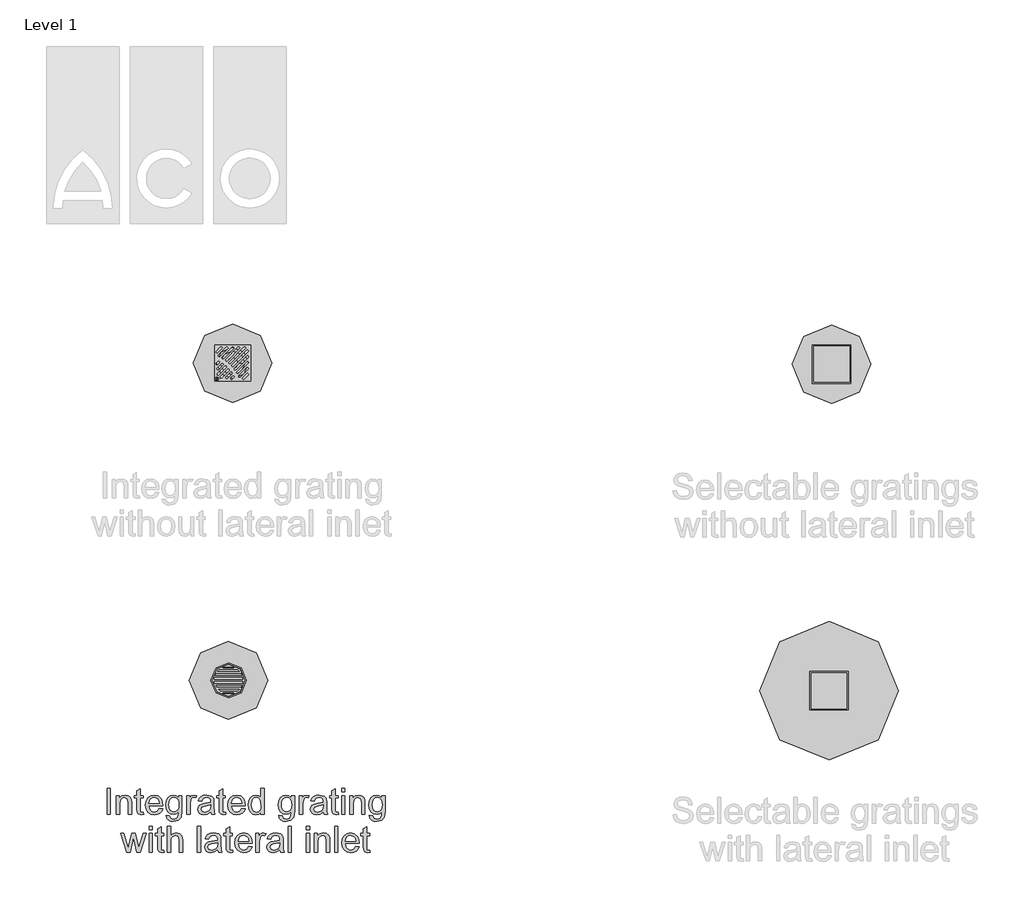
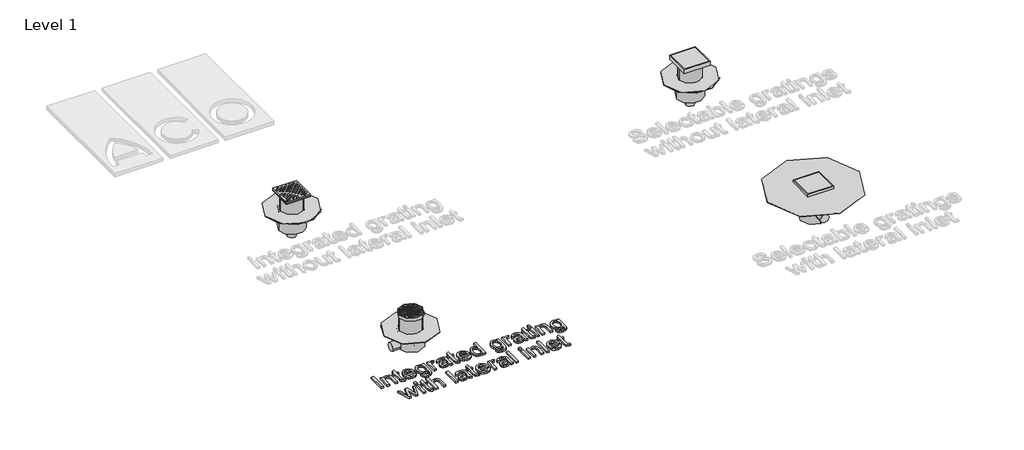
# One storey, part 1 of 4: 15 sanitary terminals, 4 pipe fittings, 1 proxy.
"""IFC4 building model written with IfcOpenShell, lengths in millimetres."""

from ifc_helpers import new_model, si_unit, origin, origin_with_axes, place, context, project, spatial, polyline, outline, extrude, transform, mapped, element, save
from components import std_nested_ba2fb492, std_nested_5614749a, forest_lockable_cee7f754, std_nested_ef57f552, std_nested_a513f84e, std_nested_4c5e4d0c, std_nested_d89320c1, std_nested_aac93e22, std_nested_ec2660e4, std_nested_a4f35663, std_nested_e99c1087

model = new_model("IFC4")

# Units and contexts
model_context = context("Model", 3, world=origin())
ifc_project = project(units=[si_unit("LENGTHUNIT", "METRE", prefix="MILLI")], contexts=[model_context])

# Site, building, storey
site = spatial("IfcSite", under=ifc_project)
building = spatial("IfcBuilding", under=site)
storey = spatial("IfcBuildingStorey", under=building, Name="Level 1", Elevation=0.0)

# Proxy
placement = place(None, origin())
element("IfcBuildingElementProxy", 1, Name="100mm ACO", ObjectType="100mm ACO", at=placement, inside=storey, context=model_context, shape_type="SweptSolid", body=[
    extrude(outline(polyline([(1762.1937772, -2112.0865747), (1749.2308143, -2112.0865747), (1749.2308143, -2012.0865747), (1762.1937772, -2012.0865747), (1762.1937772, -2112.0865747)])), origin_with_axes(), (0.0, 0.0, 1.0), 10.0),
    extrude(outline(polyline([(1843.6752587, -2112.0865747), (1830.7122957, -2112.0865747), (1830.7122957, -2067.1212969), (1826.8494485, -2051.5252321), (1816.1000272, -2047.2717598), (1806.0739856, -2049.9916673), (1799.3610226, -2057.6594913), (1797.3789624, -2071.664121), (1797.3789624, -2112.0865747), (1784.4159994, -2112.0865747), (1784.4159994, -2039.8643524), (1795.5271106, -2039.8643524), (1795.5271106, -2049.9048617), (1805.4229439, -2040.9783571), (1818.6752587, -2038.0125006), (1830.0467865, -2040.0668987), (1838.8430828, -2046.2156256), (1842.8506059, -2054.9540515), (1843.6752587, -2067.4974543), (1843.6752587, -2112.0865747)])), origin_with_axes(), (0.0, 0.0, 1.0), 10.0),
    extrude(outline(polyline([(1889.971555, -2113.0993061), (1880.8859069, -2113.9384265), (1869.2973652, -2111.0593756), (1864.8558143, -2103.7532413), (1864.0456291, -2091.4268524), (1864.0456291, -2049.1236117), (1854.7863698, -2049.1236117), (1854.7863698, -2039.8643524), (1864.0456291, -2039.8643524), (1864.0456291, -2021.519445), (1877.008592, -2013.9384265), (1877.008592, -2039.8643524), (1888.1197031, -2039.8643524), (1888.1197031, -2049.1236117), (1877.008592, -2049.1236117), (1877.008592, -2094.0310191), (1878.0502587, -2102.2486117), (1883.3453976, -2104.6791673), (1888.3801198, -2104.6791673), (1889.971555, -2113.0993061)])), origin_with_axes(), (0.0, 0.0, 1.0), 10.0),
    extrude(outline(polyline([(1964.0456291, -2078.7532413), (1910.3419254, -2078.7532413), (1912.414408, -2089.87882), (1917.1272263, -2098.0240747), (1923.9089103, -2103.0153941), (1932.1879902, -2104.6791673), (1943.8633374, -2100.9899311), (1951.0826661, -2089.8643524), (1964.0456291, -2091.3689821), (1959.6691823, -2100.9899311), (1952.7319717, -2108.0935191), (1943.48718, -2112.4771997), (1932.1879902, -2113.9384265), (1917.60104, -2111.4319161), (1906.5948189, -2103.9123848), (1899.6829265, -2092.0525758), (1897.3789624, -2076.5252321), (1899.5997379, -2060.9870376), (1906.2620643, -2048.6895839), (1916.960849, -2040.6817714), (1931.2909994, -2038.0125006), (1946.5109069, -2041.4702552), (1958.9385689, -2053.2468756), (1962.768864, -2063.7828999), (1964.0456291, -2078.7532413)]), holes=[polyline([(1951.0826661, -2069.4939821), (1948.9993328, -2059.3377321), (1944.2539624, -2052.4800932), (1930.9727124, -2047.2717598), (1923.1168096, -2048.8197923), (1916.7944717, -2053.4638895), (1910.3419254, -2069.4939821), (1951.0826661, -2069.4939821)])]), origin_with_axes(), (0.0, 0.0, 1.0), 10.0),
    extrude(outline(polyline([(2038.1197031, -2101.4384265), (2035.0670411, -2124.0802089), (2024.2018791, -2135.7121534), (2005.5386846, -2139.8643524), (1994.3226835, -2138.4573791), (1985.1538467, -2134.2364589), (1979.0449057, -2126.810967), (1977.008592, -2115.7902784), (1989.971555, -2117.8446765), (1994.5433143, -2127.4077552), (2005.7412309, -2130.6050932), (2019.0514161, -2126.9158571), (2024.2163467, -2117.9314821), (2025.1567402, -2103.3192135), (2016.3821453, -2109.8947344), (2005.5676198, -2112.0865747), (1993.1761268, -2109.4751742), (1983.4900735, -2101.6409728), (1977.2400735, -2089.8281835), (1975.1567402, -2075.2810191), (1977.1388004, -2060.6398154), (1983.0849809, -2048.6606487), (1992.5323189, -2040.6745376), (2005.0178513, -2038.0125006), (2016.0927934, -2040.3924196), (2024.8963235, -2047.5321765), (2025.1567402, -2039.8643524), (2038.1197031, -2039.8643524), (2038.1197031, -2101.4384265)]), holes=[polyline([(2007.5062772, -2102.8273154), (2014.7183721, -2101.2214126), (2021.0768791, -2096.4037043), (2025.5256638, -2087.8099543), (2027.008592, -2074.8759265), (2025.5943849, -2063.0884554), (2021.3517633, -2054.404283), (2015.0258085, -2049.0548906), (2007.3616013, -2047.2717598), (1999.6395237, -2049.0982934), (1993.48718, -2054.5778941), (1989.4615724, -2063.2331314), (1988.1197031, -2074.5865747), (1989.5266765, -2087.3035885), (1993.7475967, -2096.0564821), (2000.0012136, -2101.1346071), (2007.5062772, -2102.8273154)])]), origin_with_axes(), (0.0, 0.0, 1.0), 10.0),
    extrude(outline(polyline([(2095.5271106, -2040.8481487), (2091.4761846, -2049.1236117), (2082.9692402, -2047.2717598), (2077.1749694, -2048.899364), (2072.9866013, -2053.7821765), (2069.6011846, -2072.0113432), (2069.6011846, -2112.0865747), (2056.6382217, -2112.0865747), (2056.6382217, -2039.8643524), (2067.7493328, -2039.8643524), (2067.7493328, -2050.570371), (2074.6793096, -2041.1519682), (2083.1139161, -2038.0125006), (2095.5271106, -2040.8481487)])), origin_with_axes(), (0.0, 0.0, 1.0), 10.0),
    extrude(outline(polyline([(2165.8974809, -2112.0865747), (2152.934518, -2112.0865747), (2149.2308143, -2103.3481487), (2136.7380481, -2111.2908571), (2123.2759531, -2113.9384265), (2113.2896974, -2112.4916673), (2105.668893, -2108.1513895), (2100.8403339, -2101.4384265), (2099.2308143, -2092.8736117), (2100.8077819, -2084.5655967), (2105.5386846, -2077.8707182), (2114.1686036, -2072.977055), (2127.4426198, -2070.0726858), (2138.7852124, -2068.3365747), (2149.2308143, -2065.7902784), (2148.8980596, -2057.7607645), (2146.9594022, -2052.8851858), (2141.7944717, -2048.8197923), (2132.2169254, -2047.2717598), (2120.1364856, -2050.4112274), (2114.0456291, -2062.0865747), (2101.0826661, -2060.4951395), (2104.638077, -2050.6861117), (2111.3112541, -2043.6548617), (2121.0949636, -2039.4230909), (2133.9819717, -2038.0125006), (2153.2383374, -2041.8753478), (2160.7904207, -2051.1924774), (2162.1937772, -2065.2405098), (2162.1937772, -2081.7625006), (2162.7435457, -2102.0171302), (2165.8974809, -2112.0865747)]), holes=[polyline([(2149.2308143, -2079.6791673), (2149.2308143, -2075.0495376), (2125.9524578, -2080.3736117), (2115.6334474, -2084.4317714), (2112.1937772, -2092.6710654), (2115.8974809, -2101.2937506), (2126.5745643, -2104.6791673), (2142.387643, -2099.007871), (2147.5200214, -2091.3400469), (2149.2308143, -2079.6791673)])]), origin_with_axes(), (0.0, 0.0, 1.0), 10.0),
    extrude(outline(polyline([(2208.4900735, -2113.0993061), (2199.4044254, -2113.9384265), (2187.8158837, -2111.0593756), (2183.3743328, -2103.7532413), (2182.5641476, -2091.4268524), (2182.5641476, -2049.1236117), (2173.3048883, -2049.1236117), (2173.3048883, -2039.8643524), (2182.5641476, -2039.8643524), (2182.5641476, -2021.519445), (2195.5271106, -2013.9384265), (2195.5271106, -2039.8643524), (2206.6382217, -2039.8643524), (2206.6382217, -2049.1236117), (2195.5271106, -2049.1236117), (2195.5271106, -2094.0310191), (2196.5687772, -2102.2486117), (2201.8639161, -2104.6791673), (2206.8986383, -2104.6791673), (2208.4900735, -2113.0993061)])), origin_with_axes(), (0.0, 0.0, 1.0), 10.0),
    extrude(outline(polyline([(2282.5641476, -2078.7532413), (2228.8604439, -2078.7532413), (2230.9329265, -2089.87882), (2235.6457448, -2098.0240747), (2242.4274288, -2103.0153941), (2250.7065087, -2104.6791673), (2262.3818559, -2100.9899311), (2269.6011846, -2089.8643524), (2282.5641476, -2091.3689821), (2278.1877008, -2100.9899311), (2271.2504902, -2108.0935191), (2262.0056985, -2112.4771997), (2250.7065087, -2113.9384265), (2236.1195585, -2111.4319161), (2225.1133374, -2103.9123848), (2218.201445, -2092.0525758), (2215.8974809, -2076.5252321), (2218.1182564, -2060.9870376), (2224.7805828, -2048.6895839), (2235.4793675, -2040.6817714), (2249.809518, -2038.0125006), (2265.0294254, -2041.4702552), (2277.4570874, -2053.2468756), (2281.2873825, -2063.7828999), (2282.5641476, -2078.7532413)]), holes=[polyline([(2269.6011846, -2069.4939821), (2267.5178513, -2059.3377321), (2262.7724809, -2052.4800932), (2249.4912309, -2047.2717598), (2241.6353281, -2048.8197923), (2235.3129902, -2053.4638895), (2228.8604439, -2069.4939821), (2269.6011846, -2069.4939821)])]), origin_with_axes(), (0.0, 0.0, 1.0), 10.0),
    extrude(outline(polyline([(2356.6382217, -2112.0865747), (2343.6752587, -2112.0865747), (2343.6752587, -2103.9268524), (2335.320224, -2111.435533), (2323.9414624, -2113.9384265), (2312.0744196, -2111.2980909), (2302.3413467, -2103.3770839), (2295.8417807, -2091.2460075), (2293.6752587, -2075.9754635), (2295.7513582, -2060.2347228), (2301.9796569, -2048.1976858), (2311.6150735, -2040.5587969), (2323.9125272, -2038.0125006), (2335.1972494, -2040.2983802), (2343.414842, -2047.1560191), (2343.6752587, -2012.0865747), (2356.6382217, -2012.0865747), (2356.6382217, -2112.0865747)]), holes=[polyline([(2325.446092, -2104.6791673), (2332.4990434, -2102.9719913), (2338.3801198, -2097.8504635), (2342.351474, -2089.2567135), (2343.6752587, -2077.132871), (2338.8286152, -2055.3736117), (2332.9294543, -2049.2972228), (2324.9252587, -2047.2717598), (2316.9789335, -2049.25382), (2311.2533837, -2055.2000006), (2306.6382217, -2076.0043987), (2309.1266476, -2091.7596071), (2316.071092, -2101.4384265), (2325.446092, -2104.6791673)])]), origin_with_axes(), (0.0, 0.0, 1.0), 10.0),
    extrude(outline(polyline([(2473.3048883, -2101.4384265), (2470.2522263, -2124.0802089), (2459.3870643, -2135.7121534), (2440.7238698, -2139.8643524), (2429.5078687, -2138.4573791), (2420.3390319, -2134.2364589), (2414.2300909, -2126.810967), (2412.1937772, -2115.7902784), (2425.1567402, -2117.8446765), (2429.7284994, -2127.4077552), (2440.9264161, -2130.6050932), (2454.2366013, -2126.9158571), (2459.4015319, -2117.9314821), (2460.3419254, -2103.3192135), (2451.5673305, -2109.8947344), (2440.752805, -2112.0865747), (2428.3613119, -2109.4751742), (2418.6752587, -2101.6409728), (2412.4252587, -2089.8281835), (2410.3419254, -2075.2810191), (2412.3239856, -2060.6398154), (2418.2701661, -2048.6606487), (2427.7175041, -2040.6745376), (2440.2030365, -2038.0125006), (2451.2779786, -2040.3924196), (2460.0815087, -2047.5321765), (2460.3419254, -2039.8643524), (2473.3048883, -2039.8643524), (2473.3048883, -2101.4384265)]), holes=[polyline([(2442.6914624, -2102.8273154), (2449.9035573, -2101.2214126), (2456.2620643, -2096.4037043), (2460.710849, -2087.8099543), (2462.1937772, -2074.8759265), (2460.77957, -2063.0884554), (2456.5369485, -2054.404283), (2450.2109937, -2049.0548906), (2442.5467865, -2047.2717598), (2434.8247089, -2049.0982934), (2428.6723652, -2054.5778941), (2424.6467575, -2063.2331314), (2423.3048883, -2074.5865747), (2424.7118617, -2087.3035885), (2428.9327819, -2096.0564821), (2435.1863987, -2101.1346071), (2442.6914624, -2102.8273154)])]), origin_with_axes(), (0.0, 0.0, 1.0), 10.0),
    extrude(outline(polyline([(2530.7122957, -2040.8481487), (2526.6613698, -2049.1236117), (2518.1544254, -2047.2717598), (2512.3601545, -2048.899364), (2508.1717865, -2053.7821765), (2504.7863698, -2072.0113432), (2504.7863698, -2112.0865747), (2491.8234069, -2112.0865747), (2491.8234069, -2039.8643524), (2502.934518, -2039.8643524), (2502.934518, -2050.570371), (2509.8644948, -2041.1519682), (2518.2991013, -2038.0125006), (2530.7122957, -2040.8481487)])), origin_with_axes(), (0.0, 0.0, 1.0), 10.0),
    extrude(outline(polyline([(2601.0826661, -2112.0865747), (2588.1197031, -2112.0865747), (2584.4159994, -2103.3481487), (2571.9232332, -2111.2908571), (2558.4611383, -2113.9384265), (2548.4748825, -2112.4916673), (2540.8540781, -2108.1513895), (2536.0255191, -2101.4384265), (2534.4159994, -2092.8736117), (2535.992967, -2084.5655967), (2540.7238698, -2077.8707182), (2549.3537888, -2072.977055), (2562.627805, -2070.0726858), (2573.9703976, -2068.3365747), (2584.4159994, -2065.7902784), (2584.0832448, -2057.7607645), (2582.1445874, -2052.8851858), (2576.9796569, -2048.8197923), (2567.4021106, -2047.2717598), (2555.3216707, -2050.4112274), (2549.2308143, -2062.0865747), (2536.2678513, -2060.4951395), (2539.8232622, -2050.6861117), (2546.4964393, -2043.6548617), (2556.2801487, -2039.4230909), (2569.1671569, -2038.0125006), (2588.4235226, -2041.8753478), (2595.9756059, -2051.1924774), (2597.3789624, -2065.2405098), (2597.3789624, -2081.7625006), (2597.9287309, -2102.0171302), (2601.0826661, -2112.0865747)]), holes=[polyline([(2584.4159994, -2079.6791673), (2584.4159994, -2075.0495376), (2561.137643, -2080.3736117), (2550.8186325, -2084.4317714), (2547.3789624, -2092.6710654), (2551.0826661, -2101.2937506), (2561.7597494, -2104.6791673), (2577.5728281, -2099.007871), (2582.7052066, -2091.3400469), (2584.4159994, -2079.6791673)])]), origin_with_axes(), (0.0, 0.0, 1.0), 10.0),
    extrude(outline(polyline([(2643.6752587, -2113.0993061), (2634.5896106, -2113.9384265), (2623.0010689, -2111.0593756), (2618.559518, -2103.7532413), (2617.7493328, -2091.4268524), (2617.7493328, -2049.1236117), (2608.4900735, -2049.1236117), (2608.4900735, -2039.8643524), (2617.7493328, -2039.8643524), (2617.7493328, -2021.519445), (2630.7122957, -2013.9384265), (2630.7122957, -2039.8643524), (2641.8234069, -2039.8643524), (2641.8234069, -2049.1236117), (2630.7122957, -2049.1236117), (2630.7122957, -2094.0310191), (2631.7539624, -2102.2486117), (2637.0491013, -2104.6791673), (2642.0838235, -2104.6791673), (2643.6752587, -2113.0993061)])), origin_with_axes(), (0.0, 0.0, 1.0), 10.0),
    extrude(outline(polyline([(2667.7493328, -2025.0495376), (2654.7863698, -2025.0495376), (2654.7863698, -2012.0865747), (2667.7493328, -2012.0865747), (2667.7493328, -2025.0495376)])), origin_with_axes(), (0.0, 0.0, 1.0), 10.0),
    extrude(outline(polyline([(2667.7493328, -2112.0865747), (2654.7863698, -2112.0865747), (2654.7863698, -2039.8643524), (2667.7493328, -2039.8643524), (2667.7493328, -2112.0865747)])), origin_with_axes(), (0.0, 0.0, 1.0), 10.0),
    extrude(outline(polyline([(2745.5271106, -2112.0865747), (2732.5641476, -2112.0865747), (2732.5641476, -2067.1212969), (2728.7013004, -2051.5252321), (2717.9518791, -2047.2717598), (2707.9258374, -2049.9916673), (2701.2128744, -2057.6594913), (2699.2308143, -2071.664121), (2699.2308143, -2112.0865747), (2686.2678513, -2112.0865747), (2686.2678513, -2039.8643524), (2697.3789624, -2039.8643524), (2697.3789624, -2049.9048617), (2707.2747957, -2040.9783571), (2720.5271106, -2038.0125006), (2731.8986383, -2040.0668987), (2740.6949346, -2046.2156256), (2744.7024578, -2054.9540515), (2745.5271106, -2067.4974543), (2745.5271106, -2112.0865747)])), origin_with_axes(), (0.0, 0.0, 1.0), 10.0),
    extrude(outline(polyline([(2823.3048883, -2101.4384265), (2820.2522263, -2124.0802089), (2809.3870643, -2135.7121534), (2790.7238698, -2139.8643524), (2779.5078687, -2138.4573791), (2770.3390319, -2134.2364589), (2764.2300909, -2126.810967), (2762.1937772, -2115.7902784), (2775.1567402, -2117.8446765), (2779.7284994, -2127.4077552), (2790.9264161, -2130.6050932), (2804.2366013, -2126.9158571), (2809.4015319, -2117.9314821), (2810.3419254, -2103.3192135), (2801.5673305, -2109.8947344), (2790.752805, -2112.0865747), (2778.3613119, -2109.4751742), (2768.6752587, -2101.6409728), (2762.4252587, -2089.8281835), (2760.3419254, -2075.2810191), (2762.3239856, -2060.6398154), (2768.2701661, -2048.6606487), (2777.7175041, -2040.6745376), (2790.2030365, -2038.0125006), (2801.2779786, -2040.3924196), (2810.0815087, -2047.5321765), (2810.3419254, -2039.8643524), (2823.3048883, -2039.8643524), (2823.3048883, -2101.4384265)]), holes=[polyline([(2792.6914624, -2102.8273154), (2799.9035573, -2101.2214126), (2806.2620643, -2096.4037043), (2810.710849, -2087.8099543), (2812.1937772, -2074.8759265), (2810.77957, -2063.0884554), (2806.5369485, -2054.404283), (2800.2109937, -2049.0548906), (2792.5467865, -2047.2717598), (2784.8247089, -2049.0982934), (2778.6723652, -2054.5778941), (2774.6467575, -2063.2331314), (2773.3048883, -2074.5865747), (2774.7118617, -2087.3035885), (2778.9327819, -2096.0564821), (2785.1863987, -2101.1346071), (2792.6914624, -2102.8273154)])]), origin_with_axes(), (0.0, 0.0, 1.0), 10.0),
    extrude(outline(polyline([(1900.6197031, -2186.1606487), (1876.4009531, -2258.382871), (1864.1324346, -2258.382871), (1853.6289624, -2214.9800932), (1852.3268791, -2209.1207182), (1851.0826661, -2202.7115747), (1838.3222494, -2258.382871), (1826.0826661, -2258.382871), (1801.5456291, -2186.1606487), (1813.090768, -2186.1606487), (1830.7122957, -2243.394445), (1832.8245643, -2233.6432876), (1843.8488698, -2186.1606487), (1858.4322031, -2186.1606487), (1867.1706291, -2224.0368061), (1871.221555, -2241.831945), (1889.0745643, -2186.1606487), (1900.6197031, -2186.1606487)])), origin_with_axes(), (0.0, 0.0, 1.0), 10.0),
    extrude(outline(polyline([(1924.2308143, -2171.3458339), (1911.2678513, -2171.3458339), (1911.2678513, -2158.382871), (1924.2308143, -2158.382871), (1924.2308143, -2171.3458339)])), origin_with_axes(), (0.0, 0.0, 1.0), 10.0),
    extrude(outline(polyline([(1924.2308143, -2258.382871), (1911.2678513, -2258.382871), (1911.2678513, -2186.1606487), (1924.2308143, -2186.1606487), (1924.2308143, -2258.382871)])), origin_with_axes(), (0.0, 0.0, 1.0), 10.0),
    extrude(outline(polyline([(1970.5271106, -2259.3956024), (1961.4414624, -2260.2347228), (1949.8529207, -2257.3556719), (1945.4113698, -2250.0495376), (1944.6011846, -2237.7231487), (1944.6011846, -2195.419908), (1935.3419254, -2195.419908), (1935.3419254, -2186.1606487), (1944.6011846, -2186.1606487), (1944.6011846, -2167.8157413), (1957.5641476, -2160.2347228), (1957.5641476, -2186.1606487), (1968.6752587, -2186.1606487), (1968.6752587, -2195.419908), (1957.5641476, -2195.419908), (1957.5641476, -2240.3273154), (1958.6058143, -2248.544908), (1963.9009531, -2250.9754635), (1968.9356754, -2250.9754635), (1970.5271106, -2259.3956024)])), origin_with_axes(), (0.0, 0.0, 1.0), 10.0),
    extrude(outline(polyline([(2040.8974809, -2258.382871), (2027.934518, -2258.382871), (2027.934518, -2211.6814821), (2024.2452819, -2198.0964126), (2013.2354439, -2193.5680561), (2000.3014161, -2198.9065978), (1996.0262425, -2206.3393235), (1994.6011846, -2217.9604173), (1994.6011846, -2258.382871), (1981.6382217, -2258.382871), (1981.6382217, -2158.382871), (1994.6011846, -2158.382871), (1994.6011846, -2194.2046302), (2004.3017055, -2186.7827552), (2016.1578976, -2184.3087969), (2029.4391476, -2187.1733802), (2038.336717, -2195.9841441), (2040.8974809, -2212.4916673), (2040.8974809, -2258.382871)])), origin_with_axes(), (0.0, 0.0, 1.0), 10.0),
    extrude(outline(polyline([(2111.2678513, -2258.382871), (2098.3048883, -2258.382871), (2098.3048883, -2158.382871), (2111.2678513, -2158.382871), (2111.2678513, -2258.382871)])), origin_with_axes(), (0.0, 0.0, 1.0), 10.0),
    extrude(outline(polyline([(2192.7493328, -2258.382871), (2179.7863698, -2258.382871), (2176.0826661, -2249.644445), (2163.5898999, -2257.5871534), (2150.127805, -2260.2347228), (2140.1415492, -2258.7879635), (2132.5207448, -2254.4476858), (2127.6921858, -2247.7347228), (2126.0826661, -2239.169908), (2127.6596337, -2230.8618929), (2132.3905365, -2224.1670145), (2141.0204555, -2219.2733513), (2154.2944717, -2216.3689821), (2165.6370643, -2214.632871), (2176.0826661, -2212.0865747), (2175.7499115, -2204.0570608), (2173.8112541, -2199.1814821), (2168.6463235, -2195.1160885), (2159.0687772, -2193.5680561), (2146.9883374, -2196.7075237), (2140.8974809, -2208.382871), (2127.934518, -2206.7914358), (2131.4899288, -2196.982408), (2138.1631059, -2189.951158), (2147.9468154, -2185.7193872), (2160.8338235, -2184.3087969), (2180.0901893, -2188.1716441), (2187.6422726, -2197.4887737), (2189.0456291, -2211.5368061), (2189.0456291, -2228.0587969), (2189.5953976, -2248.3134265), (2192.7493328, -2258.382871)]), holes=[polyline([(2176.0826661, -2225.9754635), (2176.0826661, -2221.3458339), (2152.8043096, -2226.669908), (2142.4852992, -2230.7280677), (2139.0456291, -2238.9673617), (2142.7493328, -2247.5900469), (2153.4264161, -2250.9754635), (2169.2394948, -2245.3041673), (2174.3718733, -2237.6363432), (2176.0826661, -2225.9754635)])]), origin_with_axes(), (0.0, 0.0, 1.0), 10.0),
    extrude(outline(polyline([(2235.3419254, -2259.3956024), (2226.2562772, -2260.2347228), (2214.6677356, -2257.3556719), (2210.2261846, -2250.0495376), (2209.4159994, -2237.7231487), (2209.4159994, -2195.419908), (2200.1567402, -2195.419908), (2200.1567402, -2186.1606487), (2209.4159994, -2186.1606487), (2209.4159994, -2167.8157413), (2222.3789624, -2160.2347228), (2222.3789624, -2186.1606487), (2233.4900735, -2186.1606487), (2233.4900735, -2195.419908), (2222.3789624, -2195.419908), (2222.3789624, -2240.3273154), (2223.4206291, -2248.544908), (2228.715768, -2250.9754635), (2233.7504902, -2250.9754635), (2235.3419254, -2259.3956024)])), origin_with_axes(), (0.0, 0.0, 1.0), 10.0),
    extrude(outline(polyline([(2309.4159994, -2225.0495376), (2255.7122957, -2225.0495376), (2257.7847784, -2236.1751163), (2262.4975967, -2244.320371), (2269.2792807, -2249.3116904), (2277.5583606, -2250.9754635), (2289.2337078, -2247.2862274), (2296.4530365, -2236.1606487), (2309.4159994, -2237.6652784), (2305.0395527, -2247.2862274), (2298.102342, -2254.3898154), (2288.8575504, -2258.773496), (2277.5583606, -2260.2347228), (2262.9714103, -2257.7282124), (2251.9651893, -2250.2086811), (2245.0532969, -2238.3488721), (2242.7493328, -2222.8215284), (2244.9701082, -2207.2833339), (2251.6324346, -2194.9858802), (2262.3312194, -2186.9780677), (2276.6613698, -2184.3087969), (2291.8812772, -2187.7665515), (2304.3089393, -2199.5431719), (2308.1392344, -2210.0791962), (2309.4159994, -2225.0495376)]), holes=[polyline([(2296.4530365, -2215.7902784), (2294.3697031, -2205.6340284), (2289.6243328, -2198.7763895), (2276.3430828, -2193.5680561), (2268.48718, -2195.1160885), (2262.164842, -2199.7601858), (2255.7122957, -2215.7902784), (2296.4530365, -2215.7902784)])]), origin_with_axes(), (0.0, 0.0, 1.0), 10.0),
    extrude(outline(polyline([(2363.1197031, -2187.144445), (2359.0687772, -2195.419908), (2350.5618328, -2193.5680561), (2344.7675619, -2195.1956603), (2340.5791939, -2200.0784728), (2337.1937772, -2218.3076395), (2337.1937772, -2258.382871), (2324.2308143, -2258.382871), (2324.2308143, -2186.1606487), (2335.3419254, -2186.1606487), (2335.3419254, -2196.8666673), (2342.2719022, -2187.4482645), (2350.7065087, -2184.3087969), (2363.1197031, -2187.144445)])), origin_with_axes(), (0.0, 0.0, 1.0), 10.0),
    extrude(outline(polyline([(2433.4900735, -2258.382871), (2420.5271106, -2258.382871), (2416.8234069, -2249.644445), (2404.3306406, -2257.5871534), (2390.8685457, -2260.2347228), (2380.88229, -2258.7879635), (2373.2614856, -2254.4476858), (2368.4329265, -2247.7347228), (2366.8234069, -2239.169908), (2368.4003744, -2230.8618929), (2373.1312772, -2224.1670145), (2381.7611962, -2219.2733513), (2395.0352124, -2216.3689821), (2406.377805, -2214.632871), (2416.8234069, -2212.0865747), (2416.4906522, -2204.0570608), (2414.5519948, -2199.1814821), (2409.3870643, -2195.1160885), (2399.809518, -2193.5680561), (2387.7290781, -2196.7075237), (2381.6382217, -2208.382871), (2368.6752587, -2206.7914358), (2372.2306696, -2196.982408), (2378.9038467, -2189.951158), (2388.6875562, -2185.7193872), (2401.5745643, -2184.3087969), (2420.83093, -2188.1716441), (2428.3830133, -2197.4887737), (2429.7863698, -2211.5368061), (2429.7863698, -2228.0587969), (2430.3361383, -2248.3134265), (2433.4900735, -2258.382871)]), holes=[polyline([(2416.8234069, -2225.9754635), (2416.8234069, -2221.3458339), (2393.5450504, -2226.669908), (2383.22604, -2230.7280677), (2379.7863698, -2238.9673617), (2383.4900735, -2247.5900469), (2394.1671569, -2250.9754635), (2409.9802356, -2245.3041673), (2415.112614, -2237.6363432), (2416.8234069, -2225.9754635)])]), origin_with_axes(), (0.0, 0.0, 1.0), 10.0),
    extrude(outline(polyline([(2461.2678513, -2258.382871), (2448.3048883, -2258.382871), (2448.3048883, -2158.382871), (2461.2678513, -2158.382871), (2461.2678513, -2258.382871)])), origin_with_axes(), (0.0, 0.0, 1.0), 10.0),
    extrude(outline(polyline([(2531.6382217, -2258.382871), (2518.6752587, -2258.382871), (2518.6752587, -2186.1606487), (2531.6382217, -2186.1606487), (2531.6382217, -2258.382871)])), origin_with_axes(), (0.0, 0.0, 1.0), 10.0),
    extrude(outline(polyline([(2531.6382217, -2171.3458339), (2518.6752587, -2171.3458339), (2518.6752587, -2158.382871), (2531.6382217, -2158.382871), (2531.6382217, -2171.3458339)])), origin_with_axes(), (0.0, 0.0, 1.0), 10.0),
    extrude(outline(polyline([(2609.4159994, -2258.382871), (2596.4530365, -2258.382871), (2596.4530365, -2213.4175932), (2592.5901893, -2197.8215284), (2581.840768, -2193.5680561), (2571.8147263, -2196.2879635), (2565.1017633, -2203.9557876), (2563.1197031, -2217.9604173), (2563.1197031, -2258.382871), (2550.1567402, -2258.382871), (2550.1567402, -2186.1606487), (2561.2678513, -2186.1606487), (2561.2678513, -2196.201158), (2571.1636846, -2187.2746534), (2584.4159994, -2184.3087969), (2595.7875272, -2186.363195), (2604.5838235, -2192.5119219), (2608.5913467, -2201.2503478), (2609.4159994, -2213.7937506), (2609.4159994, -2258.382871)])), origin_with_axes(), (0.0, 0.0, 1.0), 10.0),
    extrude(outline(polyline([(2640.8974809, -2258.382871), (2627.934518, -2258.382871), (2627.934518, -2158.382871), (2640.8974809, -2158.382871), (2640.8974809, -2258.382871)])), origin_with_axes(), (0.0, 0.0, 1.0), 10.0),
    extrude(outline(polyline([(2722.3789624, -2225.0495376), (2668.6752587, -2225.0495376), (2670.7477413, -2236.1751163), (2675.4605596, -2244.320371), (2682.2422437, -2249.3116904), (2690.5213235, -2250.9754635), (2702.1966707, -2247.2862274), (2709.4159994, -2236.1606487), (2722.3789624, -2237.6652784), (2718.0025156, -2247.2862274), (2711.065305, -2254.3898154), (2701.8205133, -2258.773496), (2690.5213235, -2260.2347228), (2675.9343733, -2257.7282124), (2664.9281522, -2250.2086811), (2658.0162599, -2238.3488721), (2655.7122957, -2222.8215284), (2657.9330712, -2207.2833339), (2664.5953976, -2194.9858802), (2675.2941823, -2186.9780677), (2689.6243328, -2184.3087969), (2704.8442402, -2187.7665515), (2717.2719022, -2199.5431719), (2721.1021974, -2210.0791962), (2722.3789624, -2225.0495376)]), holes=[polyline([(2709.4159994, -2215.7902784), (2707.3326661, -2205.6340284), (2702.5872957, -2198.7763895), (2689.3060457, -2193.5680561), (2681.450143, -2195.1160885), (2675.127805, -2199.7601858), (2668.6752587, -2215.7902784), (2709.4159994, -2215.7902784)])]), origin_with_axes(), (0.0, 0.0, 1.0), 10.0),
    extrude(outline(polyline([(2764.971555, -2259.3956024), (2755.8859069, -2260.2347228), (2744.2973652, -2257.3556719), (2739.8558143, -2250.0495376), (2739.0456291, -2237.7231487), (2739.0456291, -2195.419908), (2729.7863698, -2195.419908), (2729.7863698, -2186.1606487), (2739.0456291, -2186.1606487), (2739.0456291, -2167.8157413), (2752.008592, -2160.2347228), (2752.008592, -2186.1606487), (2763.1197031, -2186.1606487), (2763.1197031, -2195.419908), (2752.008592, -2195.419908), (2752.008592, -2240.3273154), (2753.0502587, -2248.544908), (2758.3453976, -2250.9754635), (2763.3801198, -2250.9754635), (2764.971555, -2259.3956024)])), origin_with_axes(), (0.0, 0.0, 1.0), 10.0),
])

# Pipe fittings
std_nested_shape = std_nested_ba2fb492(model_context)
element("IfcPipeFitting", 2, ObjectType="ZZZ_do_not_use_PIF_UN_Gully bodies_With lateral inlet_ACO : std(nested)", at=placement, inside=storey, context=model_context, shape_type="MappedRepresentation", body=[
    mapped(std_nested_shape, transform((2218.0357745, -1594.5724974, 35.0), x_axis=(-1.0, 0.0, 0.0), y_axis=(0.0, -1.0, 0.0), z_axis=(0.0, 0.0, 1.0))),
])
element("IfcPipeFitting", 3, ObjectType="ZZZ_do_not_use_PIF_UN_Gully bodies_With lateral inlet_ACO : std(nested)", at=placement, inside=storey, context=model_context, shape_type="MappedRepresentation", body=[
    mapped(std_nested_shape, transform((4538.0357745, -1634.5724974, 35.0), x_axis=(0.0, 1.0, 0.0), y_axis=(-1.0, 0.0, 0.0), z_axis=(0.0, 0.0, 1.0))),
])
std_nested_2_shape = std_nested_5614749a(model_context)
element("IfcPipeFitting", 4, ObjectType="ZZZ_do_not_use_PIF_UN_Gully bodies_Without lateral inlet_ACO : std(nested)", at=placement, inside=storey, context=model_context, shape_type="MappedRepresentation", body=[
    mapped(std_nested_2_shape, transform((2233.8092772, -368.3460001, 23.4529946), x_axis=(1.0, 0.0, 0.0), y_axis=(0.0, 1.0, 0.0), z_axis=(0.0, 0.0, 1.0))),
])
element("IfcPipeFitting", 5, ObjectType="ZZZ_do_not_use_PIF_UN_Gully bodies_Without lateral inlet_ACO : std(nested)", at=placement, inside=storey, context=model_context, shape_type="MappedRepresentation", body=[
    mapped(std_nested_2_shape, transform((4548.0357745, -372.5724974, 25.0), x_axis=(1.0, 0.0, 0.0), y_axis=(0.0, 1.0, 0.0), z_axis=(0.0, 0.0, 1.0))),
])

# Sanitary terminals
forest_lockable_shape = forest_lockable_cee7f754(model_context)
element("IfcSanitaryTerminal", 6, ObjectType="ZZZ_do_not_use_PF_UN_gratings_ACO : Forest_Lockable", at=placement, inside=storey, context=model_context, shape_type="MappedRepresentation", body=[
    mapped(forest_lockable_shape, transform((4548.0357745, -372.5724974, 87.0938197), x_axis=(1.0, 0.0, 0.0), y_axis=(0.0, 1.0, 0.0), z_axis=(0.0, 0.0, 1.0))),
])
element("IfcSanitaryTerminal", 7, ObjectType="ZZZ_do_not_use_PF_UN_gratings_ACO : Forest_Placed loosely_Square", at=placement, inside=storey, context=model_context, shape_type="MappedRepresentation", body=[
    mapped(forest_lockable_shape, transform((4538.0357745, -1634.5724974, 87.0938197), x_axis=(1.0, 0.0, 0.0), y_axis=(0.0, 1.0, 0.0), z_axis=(0.0, 0.0, 1.0))),
])
std_nested_3_shape = std_nested_ef57f552(model_context)
element("IfcSanitaryTerminal", 8, ObjectType="ZZZ_do_not_use_PF_UN_foul air trap_ACO : std(nested)", at=placement, inside=storey, context=model_context, shape_type="MappedRepresentation", body=[
    mapped(std_nested_3_shape, transform((4538.0357745, -1634.5724974, -115.0), x_axis=(0.0, 1.0, 0.0), y_axis=(-1.0, 0.0, 0.0), z_axis=(0.0, 0.0, 1.0))),
])
std_nested_4_shape = std_nested_a513f84e(model_context)
element("IfcSanitaryTerminal", 9, ObjectType="ZZZ_do_not_use_PF_UN_Thin-bed flange_ACO : std(nested)", at=placement, inside=storey, context=model_context, shape_type="MappedRepresentation", body=[
    mapped(std_nested_4_shape, transform((4538.0357745, -1634.5724974, -26.0), x_axis=(1.0, 0.0, 0.0), y_axis=(0.0, 1.0, 0.0), z_axis=(0.0, 0.0, 1.0))),
])
std_nested_5_shape = std_nested_4c5e4d0c(model_context)
element("IfcSanitaryTerminal", 10, ObjectType="ZZZ_do_not_use_PF_UN_compressed seal flange_ACO : std(nested)", at=placement, inside=storey, context=model_context, shape_type="MappedRepresentation", body=[
    mapped(std_nested_5_shape, transform((2233.8092772, -368.3460001, -114.5470054), x_axis=(1.0, 0.0, 0.0), y_axis=(0.0, 1.0, 0.0), z_axis=(0.0, 0.0, 1.0))),
])
element("IfcSanitaryTerminal", 11, ObjectType="ZZZ_do_not_use_PF_UN_compressed seal flange_ACO : std(nested)", at=placement, inside=storey, context=model_context, shape_type="MappedRepresentation", body=[
    mapped(std_nested_5_shape, transform((2218.0357745, -1594.5724974, -103.0), x_axis=(-1.0, 0.0, 0.0), y_axis=(0.0, -1.0, 0.0), z_axis=(0.0, 0.0, 1.0))),
])
element("IfcSanitaryTerminal", 12, ObjectType="ZZZ_do_not_use_PF_UN_compressed seal flange_ACO : std(nested)", at=placement, inside=storey, context=model_context, shape_type="MappedRepresentation", body=[
    mapped(std_nested_5_shape, transform((4538.0357745, -1634.5724974, -103.0), x_axis=(0.0, 1.0, 0.0), y_axis=(-1.0, 0.0, 0.0), z_axis=(0.0, 0.0, 1.0))),
])
element("IfcSanitaryTerminal", 13, ObjectType="ZZZ_do_not_use_PF_UN_compressed seal flange_ACO : std(nested)", at=placement, inside=storey, context=model_context, shape_type="MappedRepresentation", body=[
    mapped(std_nested_5_shape, transform((4548.0357745, -372.5724974, -113.0), x_axis=(1.0, 0.0, 0.0), y_axis=(0.0, 1.0, 0.0), z_axis=(0.0, 0.0, 1.0))),
])
std_nested_6_shape = std_nested_d89320c1(model_context)
element("IfcSanitaryTerminal", 14, ObjectType="ZZZ_do_not_use_PF_UN_top section without grating_ACO : std(nested)", at=placement, inside=storey, context=model_context, shape_type="MappedRepresentation", body=[
    mapped(std_nested_6_shape, transform((4538.0357745, -1634.5724974, 0.0), x_axis=(1.0, 0.0, 0.0), y_axis=(0.0, 1.0, 0.0), z_axis=(0.0, 0.0, 1.0))),
])
std_nested_7_shape = std_nested_aac93e22(model_context)
element("IfcSanitaryTerminal", 15, ObjectType="ZZZ_do_not_use_PF_UN_Top section with grating_ACO : std(nested)", at=placement, inside=storey, context=model_context, shape_type="MappedRepresentation", body=[
    mapped(std_nested_7_shape, transform((2233.8092772, -368.3460001, -11.5470054), x_axis=(1.0, 0.0, 0.0), y_axis=(0.0, 1.0, 0.0), z_axis=(0.0, 0.0, 1.0))),
])
element("IfcSanitaryTerminal", 16, ObjectType="ZZZ_do_not_use_PF_UN_foul air trap_ACO : std(nested)", at=placement, inside=storey, context=model_context, shape_type="MappedRepresentation", body=[
    mapped(std_nested_3_shape, transform((2233.8092772, -368.3460001, -126.5470054), x_axis=(1.0, 0.0, 0.0), y_axis=(0.0, 1.0, 0.0), z_axis=(0.0, 0.0, 1.0))),
])
element("IfcSanitaryTerminal", 17, ObjectType="ZZZ_do_not_use_PF_UN_foul air trap_ACO : std(nested)", at=placement, inside=storey, context=model_context, shape_type="MappedRepresentation", body=[
    mapped(std_nested_3_shape, transform((4548.0357745, -372.5724974, -125.0), x_axis=(1.0, 0.0, 0.0), y_axis=(0.0, 1.0, 0.0), z_axis=(0.0, 0.0, 1.0))),
])
std_nested_8_shape = std_nested_ec2660e4(model_context)
element("IfcSanitaryTerminal", 18, ObjectType="ZZZ_do_not_use_PF_UN_Top section with grating_ACO : std(nested)", at=placement, inside=storey, context=model_context, shape_type="MappedRepresentation", body=[
    mapped(std_nested_8_shape, transform((2218.0357745, -1594.5724974, 0.0), x_axis=(1.0, 0.0, 0.0), y_axis=(0.0, 1.0, 0.0), z_axis=(0.0, 0.0, 1.0))),
])
std_nested_9_shape = std_nested_a4f35663(model_context)
element("IfcSanitaryTerminal", 19, ObjectType="ZZZ_do_not_use_PF_UN_foul air trap_ACO : std(nested)", at=placement, inside=storey, context=model_context, shape_type="MappedRepresentation", body=[
    mapped(std_nested_9_shape, transform((2218.0357745, -1594.5724974, -115.0), x_axis=(-1.0, 0.0, 0.0), y_axis=(0.0, -1.0, 0.0), z_axis=(0.0, 0.0, 1.0))),
])
std_nested_10_shape = std_nested_e99c1087(model_context)
element("IfcSanitaryTerminal", 20, ObjectType="ZZZ_do_not_use_PF_UN_top section without grating_ACO : std(nested)", at=placement, inside=storey, context=model_context, shape_type="MappedRepresentation", body=[
    mapped(std_nested_10_shape, transform((4548.0357745, -372.5724974, 0.0), x_axis=(1.0, 0.0, 0.0), y_axis=(0.0, 1.0, 0.0), z_axis=(0.0, 0.0, 1.0))),
])

save(model, "model.ifc")
